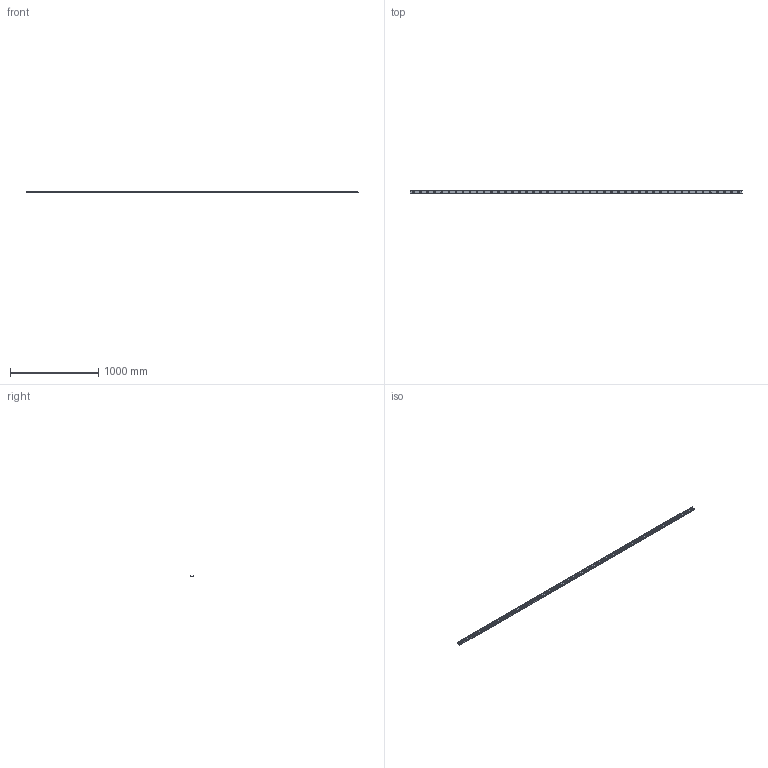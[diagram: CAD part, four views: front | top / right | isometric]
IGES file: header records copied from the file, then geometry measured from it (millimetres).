
Start section: SolidWorks IGES file using analytic representation for surfaces
Global section: file name: C:\Users\IanO\Desktop\43\L1943.ULC43_v2_20180121_IGES\L1943.ULC43-3760.igs; native system: SolidWorks 2017; preprocessor: SolidWorks 2017; author: IanO; date: 190121.085411; units: millimetre
Bounding box: 3760 x 43 x 21 mm (x, y, z)
Surface area: 589476.7 mm2 (no closed solid volume)
Topology: 0 solids, 0 shells, 261 faces, 7062 edges, 7062 vertices
Faces by surface type: revolution 201, bspline 60
